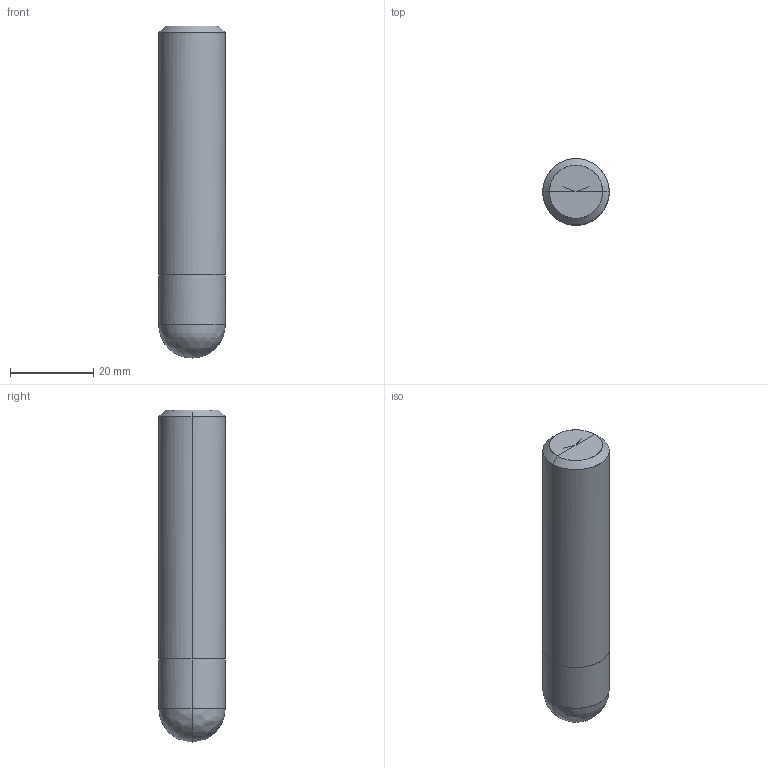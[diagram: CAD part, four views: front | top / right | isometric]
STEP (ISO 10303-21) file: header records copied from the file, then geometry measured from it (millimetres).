
FILE_DESCRIPTION(/* description */ (''),/* implementation_level */ '2;1');
FILE_NAME(/*name*/ '2152-16F',/*time_stamp*/'2021-5-26T7:15:51',/*author*/ ('ISBE GmbH'),/*organization*/ ('ISBE GmbH'),/*preprocessor_version*/ 'STEP IO v1.0',/*originating_system*/ '',/*authorisation*/ '');
FILE_SCHEMA (('AUTOMOTIVE_DESIGN'));
Length unit declared in the file: millimetre
Products named in the file (1): Document
Bounding box: 16 x 15.99 x 80 mm (x, y, z)
Surface area: 4580.4 mm2 (no closed solid volume)
Topology: 0 solids, 14 shells, 14 faces, 58 edges, 52 vertices
Faces by surface type: bspline 14
Entity records: 657 total; most frequent: CARTESIAN_POINT 392, VERTEX_POINT 48, EDGE_CURVE 48, ORIENTED_EDGE 48, DIRECTION 16, EDGE_LOOP 14, FACE_OUTER_BOUND 14, ADVANCED_FACE 14
